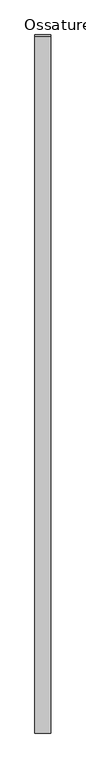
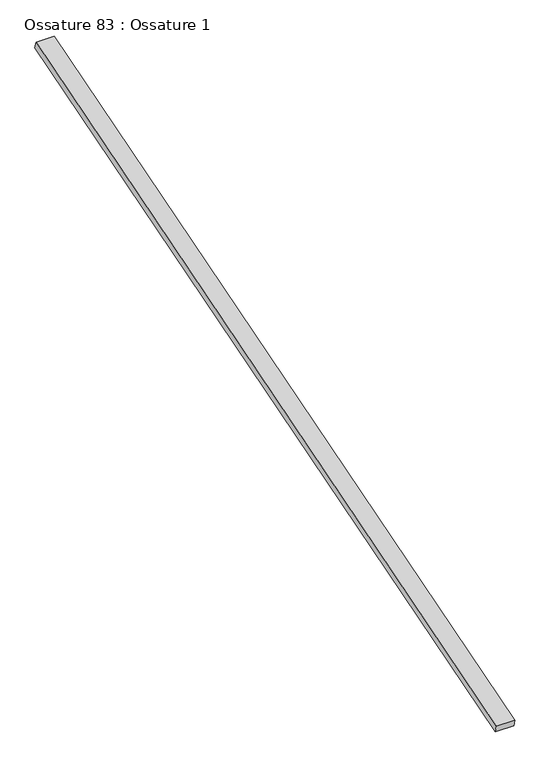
"""IFC4 building model written with IfcOpenShell, lengths in millimetres: beam geometry, Ossature 83 : Ossature 1."""

from ifc_helpers import new_model, si_unit, frame, origin, place, context, project, spatial, polyline, outline, extrude, source, transform, mapped, element, save


def ossature_83_ossature_1_ed270c00(model_context):
    return source(origin(), model_context, "Body", "SweptSolid", [
        extrude(outline(polyline([(0.0, 0.0), (0.0, -4543.0299679), (-100.0, -4543.0299679), (-100.0, 0.0), (0.0, 0.0)])), frame((20053.0466393, -833.3913565, 8153.6336115), z_axis=(0.0, -0.28734788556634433, 0.9578262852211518), x_axis=(-1.0, 0.0, 0.0)), (0.0, 0.0, 1.0), 40.0),
    ])


if __name__ == "__main__":
    model = new_model("IFC4")
    model_context = context("Model", 3, world=origin())
    ifc_project = project(units=[si_unit("LENGTHUNIT", "METRE", prefix="MILLI")], contexts=[model_context])
    site = spatial("IfcSite", under=ifc_project)
    building = spatial("IfcBuilding", under=site)
    placement = place(None, origin())
    ossature_83_ossature_1_shape = ossature_83_ossature_1_ed270c00(model_context)
    element("IfcBeam", 1, ObjectType="Ossature 83 : Ossature 1", at=placement, inside=building, context=model_context, shape_type="MappedRepresentation", body=[
        mapped(ossature_83_ossature_1_shape, transform((0.0, 0.0, 0.0), x_axis=(1.0, 0.0, 0.0), y_axis=(0.0, 1.0, 0.0), z_axis=(0.0, 0.0, 1.0))),
    ])
    save(model, "model.ifc")
